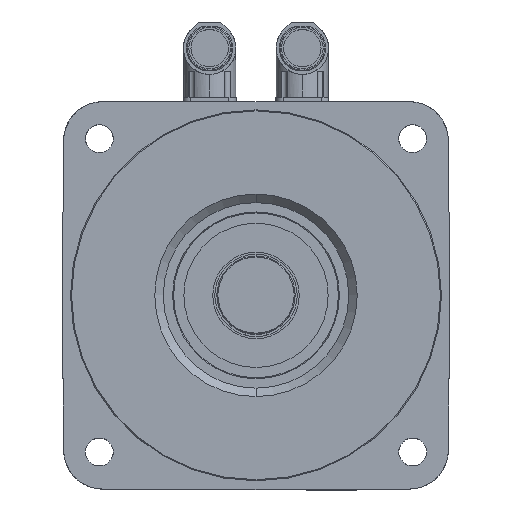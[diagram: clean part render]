
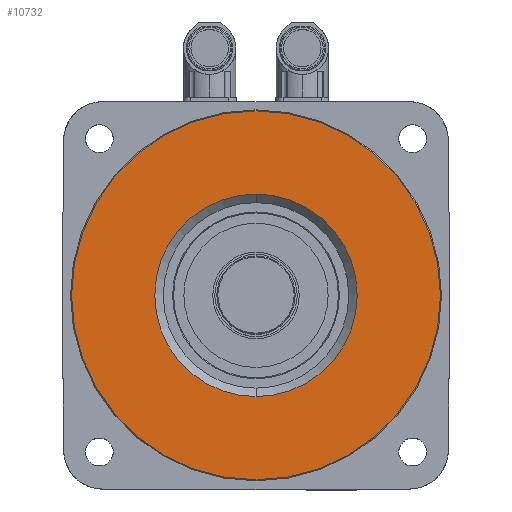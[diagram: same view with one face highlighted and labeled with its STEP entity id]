
A CAD part, top view. The second image highlights one B-rep face of the part: STEP entity #10732.
In plain terms, the highlighted planar face has unit normal (0, 0, 1).
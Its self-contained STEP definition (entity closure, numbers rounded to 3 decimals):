
#10199 = VERTEX_POINT ( 'NONE', #26462 ) ;
#10215 = EDGE_CURVE ( 'NONE', #10199, #10216, #26516, .T. ) ;
#10216 = VERTEX_POINT ( 'NONE', #26511 ) ;
#10705 = ORIENTED_EDGE ( 'NONE', *, *, #11476, .T. ) ;
#10708 = ORIENTED_EDGE ( 'NONE', *, *, #10710, .T. ) ;
#10710 = EDGE_CURVE ( 'NONE', #11593, #11373, #28030, .T. ) ;
#10732 = ADVANCED_FACE ( 'NONE', ( #28169, #28168 ), #28172, .T. ) ;
#10734 = EDGE_LOOP ( 'NONE', ( #10735, #10783 ) ) ;
#10735 = ORIENTED_EDGE ( 'NONE', *, *, #10781, .T. ) ;
#10781 = EDGE_CURVE ( 'NONE', #10216, #10199, #28145, .T. ) ;
#10783 = ORIENTED_EDGE ( 'NONE', *, *, #10215, .T. ) ;
#10785 = EDGE_LOOP ( 'NONE', ( #10705, #10708 ) ) ;
#11373 = VERTEX_POINT ( 'NONE', #18930 ) ;
#11476 = EDGE_CURVE ( 'NONE', #11373, #11593, #19343, .T. ) ;
#11593 = VERTEX_POINT ( 'NONE', #19572 ) ;
#18930 = CARTESIAN_POINT ( 'NONE',  ( 0., -49.127, 2.9 ) ) ;
#19339 = DIRECTION ( 'NONE',  ( 0., 1., 0. ) ) ;
#19340 = DIRECTION ( 'NONE',  ( 0., 0., -1. ) ) ;
#19341 = CARTESIAN_POINT ( 'NONE',  ( 0., 0., 2.9 ) ) ;
#19342 = AXIS2_PLACEMENT_3D ( 'NONE', #19341, #19340, #19339 ) ;
#19343 = CIRCLE ( 'NONE', #19342, 49.127 ) ;
#19572 = CARTESIAN_POINT ( 'NONE',  ( 0., 49.127, 2.9 ) ) ;
#26462 = CARTESIAN_POINT ( 'NONE',  ( 89.5, 0., 2.9 ) ) ;
#26511 = CARTESIAN_POINT ( 'NONE',  ( -89.5, 0., 2.9 ) ) ;
#26512 = DIRECTION ( 'NONE',  ( 1., 0., 0. ) ) ;
#26513 = DIRECTION ( 'NONE',  ( 0., 0., 1. ) ) ;
#26514 = CARTESIAN_POINT ( 'NONE',  ( 0., 0., 2.9 ) ) ;
#26515 = AXIS2_PLACEMENT_3D ( 'NONE', #26514, #26513, #26512 ) ;
#26516 = CIRCLE ( 'NONE', #26515, 89.5 ) ;
#28027 = DIRECTION ( 'NONE',  ( 0., 0., -1. ) ) ;
#28028 = CARTESIAN_POINT ( 'NONE',  ( 0., 0., 2.9 ) ) ;
#28029 = AXIS2_PLACEMENT_3D ( 'NONE', #28028, #28027, #28062 ) ;
#28030 = CIRCLE ( 'NONE', #28029, 49.127 ) ;
#28062 = DIRECTION ( 'NONE',  ( 0., 1., 0. ) ) ;
#28140 = DIRECTION ( 'NONE',  ( 1., 0., 0. ) ) ;
#28141 = DIRECTION ( 'NONE',  ( 0., 0., 1. ) ) ;
#28142 = CARTESIAN_POINT ( 'NONE',  ( 0., 0., 2.9 ) ) ;
#28144 = AXIS2_PLACEMENT_3D ( 'NONE', #28142, #28141, #28140 ) ;
#28145 = CIRCLE ( 'NONE', #28144, 89.5 ) ;
#28159 = DIRECTION ( 'NONE',  ( 1., 0., 0. ) ) ;
#28160 = DIRECTION ( 'NONE',  ( 0., 0., 1. ) ) ;
#28161 = AXIS2_PLACEMENT_3D ( 'NONE', #28170, #28160, #28159 ) ;
#28168 = FACE_BOUND ( 'NONE', #10785, .T. ) ;
#28169 = FACE_OUTER_BOUND ( 'NONE', #10734, .T. ) ;
#28170 = CARTESIAN_POINT ( 'NONE',  ( 0., 40.462, 2.9 ) ) ;
#28172 = PLANE ( 'NONE',  #28161 ) ;
